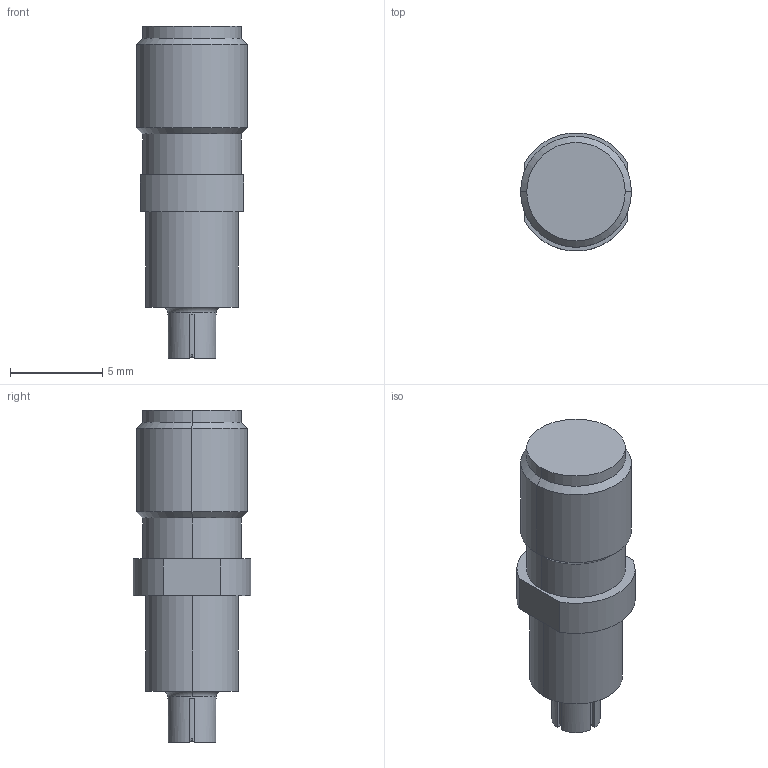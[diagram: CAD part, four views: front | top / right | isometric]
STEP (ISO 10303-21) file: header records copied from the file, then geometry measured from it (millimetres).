
FILE_DESCRIPTION (( 'STEP AP203' ), '1' );
FILE_NAME ('90449-002 MHF 4 ACCESSORIES.STEP', '2020-03-27T10:15:33', ( '' ), ( '' ), 'SwSTEP 2.0', 'SolidWorks 2017', '' );
FILE_SCHEMA (( 'CONFIG_CONTROL_DESIGN' ));
Length unit declared in the file: millimetre
Products named in the file (1): 90449-002 MHF 4 ACCESSORIES
Bounding box: 6 x 6.38 x 17.96 mm (x, y, z)
Volume: 384.8 mm3; surface area: 357.2 mm2
Topology: 1 solids, 1 shells, 91 faces, 224 edges, 142 vertices
Faces by surface type: plane 33, cylinder 20, bspline 20, torus 10, cone 8
Entity records: 3164 total; most frequent: CARTESIAN_POINT 1059, ORIENTED_EDGE 448, DIRECTION 373, EDGE_CURVE 224, VERTEX_POINT 142, AXIS2_PLACEMENT_3D 138, EDGE_LOOP 98, VECTOR 97
